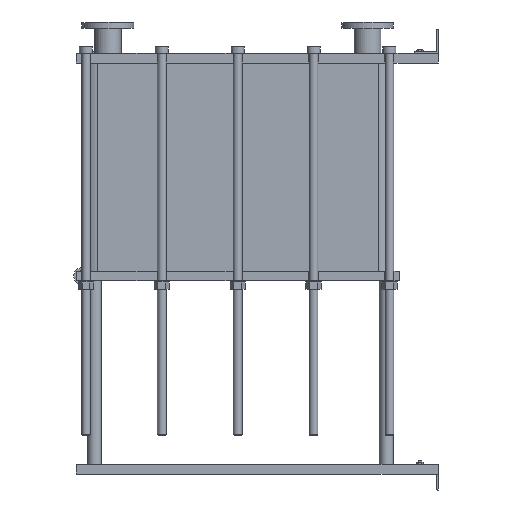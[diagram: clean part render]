
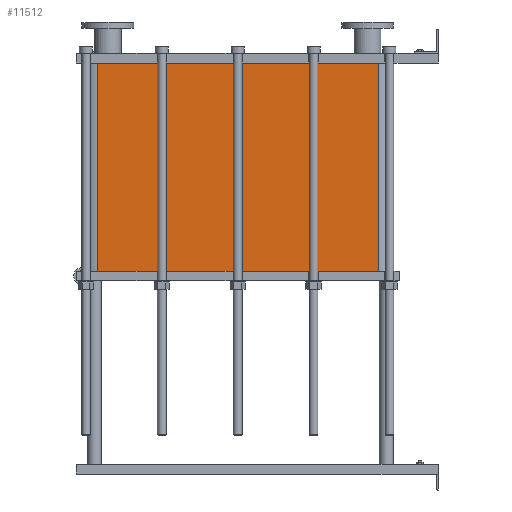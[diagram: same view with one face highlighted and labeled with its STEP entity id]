
A CAD part, left-side view. The second image highlights one B-rep face of the part: STEP entity #11512.
In plain terms, the highlighted planar face has unit normal (-1, 0, 0).
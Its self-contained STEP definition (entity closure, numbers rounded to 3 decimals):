
#1129=LINE('',#23232,#2102);
#1130=LINE('',#23236,#2103);
#1131=LINE('',#23238,#2104);
#1132=LINE('',#23239,#2105);
#2102=VECTOR('',#15887,10.);
#2103=VECTOR('',#15892,10.);
#2104=VECTOR('',#15893,10.);
#2105=VECTOR('',#15894,10.);
#3267=FACE_OUTER_BOUND('',#4093,.T.);
#4093=EDGE_LOOP('',(#10103,#10104,#10105,#10106));
#5642=VERTEX_POINT('',#23229);
#5643=VERTEX_POINT('',#23231);
#5644=VERTEX_POINT('',#23235);
#5645=VERTEX_POINT('',#23237);
#7159=EDGE_CURVE('',#5643,#5642,#1129,.T.);
#7161=EDGE_CURVE('',#5642,#5644,#1130,.T.);
#7162=EDGE_CURVE('',#5645,#5644,#1131,.T.);
#7163=EDGE_CURVE('',#5645,#5643,#1132,.T.);
#10103=ORIENTED_EDGE('',*,*,#7161,.T.);
#10104=ORIENTED_EDGE('',*,*,#7162,.F.);
#10105=ORIENTED_EDGE('',*,*,#7163,.T.);
#10106=ORIENTED_EDGE('',*,*,#7159,.T.);
#10857=PLANE('',#12751);
#11512=ADVANCED_FACE('',(#3267),#10857,.T.);
#12751=AXIS2_PLACEMENT_3D('',#23234,#15890,#15891);
#15887=DIRECTION('',(0.,0.,-1.));
#15890=DIRECTION('center_axis',(-1.,0.,0.));
#15891=DIRECTION('ref_axis',(0.,1.,0.));
#15892=DIRECTION('',(0.,-1.,0.));
#15893=DIRECTION('',(0.,0.,-1.));
#15894=DIRECTION('',(0.,1.,0.));
#23229=CARTESIAN_POINT('',(-200.,1414.,-862.5));
#23231=CARTESIAN_POINT('',(-200.,1414.,0.));
#23232=CARTESIAN_POINT('',(-200.,1414.,0.));
#23234=CARTESIAN_POINT('Origin',(-200.,248.,0.));
#23235=CARTESIAN_POINT('',(-200.,248.,-862.5));
#23236=CARTESIAN_POINT('',(-200.,539.5,-862.5));
#23237=CARTESIAN_POINT('',(-200.,248.,0.));
#23238=CARTESIAN_POINT('',(-200.,248.,0.));
#23239=CARTESIAN_POINT('',(-200.,248.,0.));
